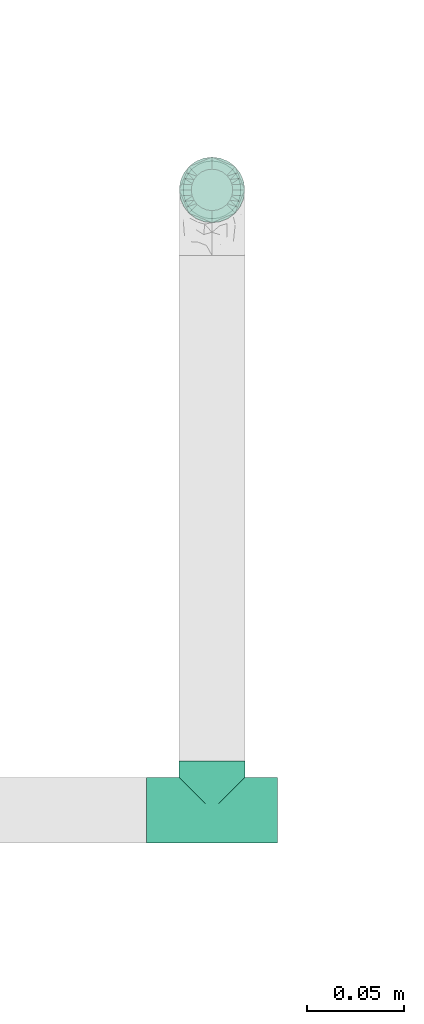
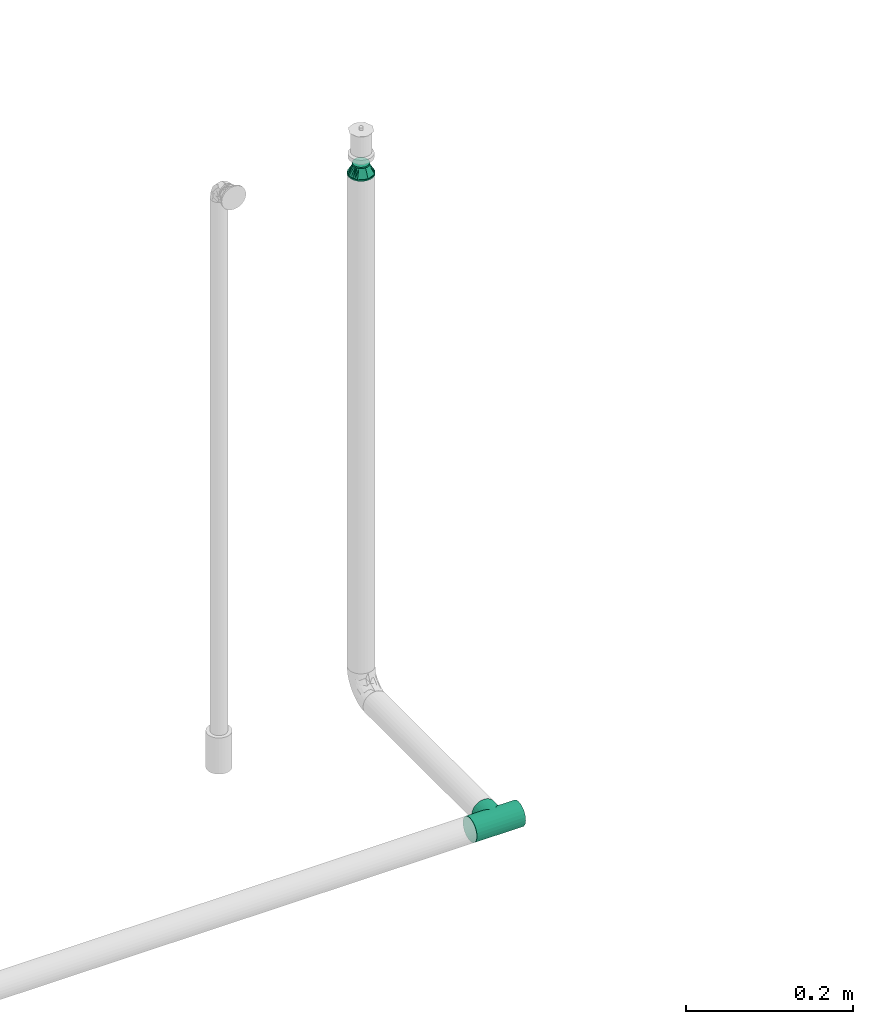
# One storey, part 47 of 94: 2 flow fittings.
"""IFC2X3 building model written with IfcOpenShell, lengths in millimetres."""

from ifc_helpers import new_model, entity, si_unit, converted_unit, derived_unit, direction, frame, origin_with_axes, place, context, subcontext, project, spatial, open_shell, surface_model, source, transform, mapped, type_object, element, save


model = new_model("IFC2X3")

# Units and contexts
model_context = context("Model", 3, precision=0.01, world=frame((0.0, 4.29681676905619e-09, 0.0)), true_north=direction((4.01073788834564e-13, 1.0)))
plan_context = context("Plan", 3, precision=0.01, world=frame((0.0, 4.29681676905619e-09, 0.0)), true_north=direction((4.01073788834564e-13, 1.0)))
body_context = subcontext(model_context, "Body", "Model", "MODEL_VIEW")
ifc_project = project(units=[converted_unit("PLANEANGLEUNIT", "DEGREE", entity("IfcPositiveLengthMeasure", 0.0174532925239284), si_unit("PLANEANGLEUNIT", "RADIAN"), dimensions=[0, 0, 0, 0, 0, 0, 0]), si_unit("AREAUNIT", "SQUARE_METRE"), si_unit("LENGTHUNIT", "METRE", prefix="MILLI"), si_unit("MASSUNIT", "GRAM", prefix="KILO"), si_unit("POWERUNIT", "WATT"), si_unit("PRESSUREUNIT", "PASCAL", prefix="KILO"), si_unit("FORCEUNIT", "NEWTON", prefix="KILO"), si_unit("ELECTRICVOLTAGEUNIT", "VOLT"), si_unit("ELECTRICCURRENTUNIT", "AMPERE"), si_unit("THERMODYNAMICTEMPERATUREUNIT", "DEGREE_CELSIUS"), si_unit("TIMEUNIT", "SECOND"), si_unit("VOLUMEUNIT", "CUBIC_METRE"), derived_unit("LINEARVELOCITYUNIT", [(si_unit("LENGTHUNIT", "METRE"), 1), (si_unit("TIMEUNIT", "SECOND"), -1)]), derived_unit("VOLUMETRICFLOWRATEUNIT", [(si_unit("VOLUMEUNIT", "CUBIC_METRE"), 1), (si_unit("TIMEUNIT", "SECOND"), -1)]), derived_unit("THERMALTRANSMITTANCEUNIT", [(si_unit("POWERUNIT", "WATT"), 1), (si_unit("THERMODYNAMICTEMPERATUREUNIT", "KELVIN"), -1), (si_unit("AREAUNIT", "SQUARE_METRE"), -1)]), derived_unit("SOUNDPRESSUREUNIT", [(si_unit("PRESSUREUNIT", "PASCAL"), 1)])], contexts=[model_context, plan_context])

# Site, building, storey
site_placement = place(None, frame((0.0, -4.29681676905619e-09, 0.0), z_axis=(0.0, 0.0, 1.0), x_axis=(1.0, 0.0, 0.0)))
site = spatial("IfcSite", under=ifc_project, at=site_placement, CompositionType="ELEMENT")
building_placement = place(site_placement, frame((0.0, 4.29681676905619e-09, 0.0), z_axis=(0.0, 0.0, 1.0), x_axis=(1.0, 0.0, 0.0)))
building = spatial("IfcBuilding", under=site, at=building_placement, Name="mc-building", CompositionType="ELEMENT")
storey_placement = place(building_placement, frame((0.0, 0.0, 210900.0), z_axis=(0.0, 0.0, 1.0), x_axis=(1.0, 0.0, 0.0)))
storey = spatial("IfcBuildingStorey", under=building, at=storey_placement, Name="Nivå F", CompositionType="ELEMENT", Elevation=210900.0)

# Flow fittings
pipe_fitting_type_1 = type_object("IfcPipeFittingType", Name="magi_pipe_fe_reducer_centric_short_NOR", PredefinedType="TRANSITION")
shared_shape_1 = source(origin_with_axes(), body_context, "Body", "SurfaceModel", [
    surface_model("IfcShellBasedSurfaceModel", [(14.4, 5.35, -9.26647), (14.4, 0.0, -10.7), (14.4, 2.76936, -10.33541), (14.4, 10.33541, -2.76936), (14.4, 7.56604, -7.56604), (14.4, -10.33541, -2.76936), (14.4, 9.26647, -5.35), (14.4, 0.0, 10.7), (14.4, -5.35, -9.26647), (14.4, -2.76936, -10.33541), (14.4, -7.56604, -7.56604), (14.4, -9.26647, -5.35), (14.4, 10.7, 0.0), (14.4, 10.33541, 2.76936), (14.4, 9.26647, 5.35), (14.4, 7.56604, 7.56604), (14.4, 2.76936, 10.33541), (14.4, 5.35, 9.26647), (14.4, -10.33541, 2.76936), (14.4, -7.56604, 7.56604), (14.4, -9.26647, 5.35), (14.4, -10.7, 0.0), (14.4, -2.76936, 10.33541), (14.4, -5.35, 9.26647), (12.4, 2.76936, 10.33541), (12.4, -10.33541, -2.76936), (12.4, 0.0, 10.7), (12.4, 5.35, 9.26647), (12.4, 7.56604, 7.56604), (12.4, 9.26647, 5.35), (12.4, 10.33541, 2.76936), (12.4, -10.33541, 2.76936), (12.4, -2.76936, 10.33541), (12.4, -7.56604, 7.56604), (12.4, -5.35, 9.26647), (12.4, -9.26647, 5.35), (12.4, -10.7, 0.0), (12.4, 10.33541, -2.76936), (12.4, 5.35, -9.26647), (12.4, 9.26647, -5.35), (12.4, 7.56604, -7.56604), (12.4, 2.76936, -10.33541), (12.4, -9.26647, -5.35), (12.4, -5.35, -9.26647), (12.4, -7.56604, -7.56604), (12.4, 0.0, -10.7), (12.4, -2.76936, -10.33541), (12.4, 10.7, 0.0), (-2.0, 11.9501, 11.9501), (-2.0, 0.0, 16.9), (-2.0, 4.37404, 16.32415), (-2.0, 8.45, 14.63583), (-2.0, 14.63583, 8.45), (-2.0, 16.32415, 4.37404), (-2.0, -16.32415, 4.37404), (-2.0, -8.45, 14.63583), (-2.0, -14.63583, 8.45), (-2.0, -11.9501, 11.9501), (-2.0, -4.37404, 16.32415), (-2.0, -16.32415, -4.37404), (-2.0, -16.9, 0.0), (-2.0, -8.45, -14.63583), (-2.0, 16.32415, -4.37404), (-2.0, 11.9501, -11.9501), (-2.0, 14.63583, -8.45), (-2.0, 8.45, -14.63583), (-2.0, 4.37404, -16.32415), (-2.0, 0.0, -16.9), (-2.0, -11.9501, -11.9501), (-2.0, -14.63583, -8.45), (-2.0, -4.37404, -16.32415), (-2.0, 16.9, 0.0), (0.0, 4.37404, -16.32415), (0.0, 8.45, -14.63583), (0.0, 11.9501, -11.9501), (0.0, 0.0, -16.9), (0.0, 16.32415, -4.37404), (0.0, 16.32415, 4.37404), (0.0, 14.63583, -8.45), (0.0, -8.45, -14.63583), (0.0, -4.37404, -16.32415), (0.0, -11.9501, -11.9501), (0.0, -16.32415, -4.37404), (0.0, -14.63583, -8.45), (0.0, -16.32415, 4.37404), (0.0, 16.9, 0.0), (0.0, 14.63583, 8.45), (0.0, 11.9501, 11.9501), (0.0, 4.37404, 16.32415), (0.0, 8.45, 14.63583), (0.0, 0.0, 16.9), (0.0, -14.63583, 8.45), (0.0, -16.9, 0.0), (0.0, -8.45, 14.63583), (0.0, -11.9501, 11.9501), (0.0, -4.37404, 16.32415), (12.4, 9.3625, -2.31662), (0.0, 14.42505, -5.97505), (0.0, 15.66253, -2.98753), (12.4, -6.6875, -6.94985), (0.0, -13.18758, -8.96258), (0.0, 2.98753, -15.66253), (12.4, 0.0, -9.26647), (12.4, 6.6875, -6.94985), (0.0, 8.96258, -13.18758), (12.4, -9.3625, -2.31662), (0.0, -15.66253, -2.98753), (0.0, -14.42505, -5.97505), (0.0, 5.97505, -14.42505), (0.0, -2.98753, -15.66253), (0.0, -8.96258, -13.18758), (0.0, 13.18758, -8.96258), (12.4, 8.025, -4.63324), (12.4, -2.675, -9.26647), (12.4, 2.675, -9.26647), (0.0, -5.97505, -14.42505), (12.4, -8.025, -4.63324), (12.4, -9.3625, 2.31662), (0.0, -14.42505, 5.97505), (0.0, -15.66253, 2.98753), (12.4, 6.6875, 6.94985), (0.0, 13.18758, 8.96258), (0.0, -2.98753, 15.66253), (12.4, 0.0, 9.26647), (12.4, -6.6875, 6.94985), (0.0, -8.96258, 13.18758), (12.4, 9.3625, 2.31662), (0.0, 15.66253, 2.98753), (0.0, 14.42505, 5.97505), (0.0, -5.97505, 14.42505), (0.0, 2.98753, 15.66253), (0.0, 8.96258, 13.18758), (0.0, -13.18758, 8.96258), (12.4, -8.025, 4.63324), (12.4, 2.675, 9.26647), (12.4, -2.675, 9.26647), (0.0, 5.97505, 14.42505), (12.4, 8.025, 4.63324)], [open_shell([[[0, 1, 2]], [[3, 0, 4]], [[5, 0, 3]], [[3, 4, 6]], [[7, 5, 3]], [[1, 8, 9]], [[1, 0, 8]], [[10, 5, 11]], [[5, 10, 8]], [[0, 5, 8]], [[3, 12, 13]], [[13, 14, 15]], [[13, 15, 16]], [[7, 3, 16]], [[16, 15, 17]], [[7, 18, 5]], [[18, 19, 20]], [[21, 5, 18]], [[19, 22, 23]], [[22, 19, 18]], [[7, 22, 18]], [[13, 16, 3]], [[24, 25, 26]], [[27, 25, 24]], [[28, 29, 30]], [[28, 25, 27]], [[31, 26, 25]], [[32, 33, 34]], [[33, 32, 31]], [[33, 31, 35]], [[32, 26, 31]], [[31, 25, 36]], [[30, 37, 28]], [[25, 28, 37]], [[38, 37, 39]], [[37, 38, 25]], [[38, 39, 40]], [[41, 25, 38]], [[42, 43, 44]], [[43, 42, 25]], [[43, 45, 46]], [[43, 25, 41]], [[41, 45, 43]], [[37, 30, 47]], [[25, 5, 36]], [[42, 11, 25]], [[8, 44, 43]], [[42, 44, 10]], [[9, 43, 46]], [[25, 11, 5]], [[5, 21, 36]], [[9, 8, 43]], [[10, 44, 8]], [[10, 11, 42]], [[1, 9, 46]], [[46, 45, 1]], [[41, 2, 45]], [[38, 0, 41]], [[6, 40, 39]], [[38, 40, 4]], [[3, 39, 37]], [[38, 4, 0]], [[0, 2, 41]], [[12, 3, 37]], [[6, 39, 3]], [[6, 4, 40]], [[47, 12, 37]], [[45, 2, 1]], [[30, 13, 47]], [[29, 14, 30]], [[17, 28, 27]], [[29, 28, 15]], [[16, 27, 24]], [[30, 14, 13]], [[13, 12, 47]], [[16, 17, 27]], [[15, 28, 17]], [[15, 14, 29]], [[7, 16, 24]], [[24, 26, 7]], [[32, 22, 26]], [[34, 23, 32]], [[20, 33, 35]], [[34, 33, 19]], [[18, 35, 31]], [[34, 19, 23]], [[23, 22, 32]], [[21, 18, 31]], [[20, 35, 18]], [[20, 19, 33]], [[36, 21, 31]], [[26, 22, 7]], [[48, 49, 50]], [[48, 50, 51]], [[48, 52, 53]], [[48, 53, 49]], [[49, 53, 54]], [[55, 56, 57]], [[55, 58, 49]], [[56, 55, 49]], [[49, 54, 56]], [[54, 59, 60]], [[54, 53, 61]], [[53, 62, 63]], [[63, 62, 64]], [[63, 65, 66]], [[61, 53, 63]], [[67, 63, 66]], [[59, 68, 69]], [[68, 59, 61]], [[61, 67, 70]], [[59, 54, 61]], [[63, 67, 61]], [[53, 71, 62]], [[72, 73, 74]], [[75, 72, 74]], [[74, 76, 77]], [[76, 74, 78]], [[74, 77, 79]], [[75, 79, 80]], [[75, 74, 79]], [[81, 82, 83]], [[82, 81, 79]], [[79, 84, 82]], [[77, 76, 85]], [[77, 86, 87]], [[77, 87, 88]], [[88, 84, 79]], [[88, 87, 89]], [[84, 88, 90]], [[90, 91, 84]], [[92, 82, 84]], [[91, 93, 94]], [[91, 90, 93]], [[93, 90, 95]], [[79, 77, 88]], [[59, 82, 60]], [[69, 83, 59]], [[79, 68, 61]], [[69, 68, 81]], [[80, 61, 70]], [[59, 83, 82]], [[82, 92, 60]], [[80, 79, 61]], [[81, 68, 79]], [[81, 83, 69]], [[75, 80, 70]], [[70, 67, 75]], [[66, 72, 67]], [[65, 73, 66]], [[78, 63, 64]], [[65, 63, 74]], [[76, 64, 62]], [[65, 74, 73]], [[73, 72, 66]], [[85, 76, 62]], [[78, 64, 76]], [[78, 74, 63]], [[71, 85, 62]], [[67, 72, 75]], [[53, 77, 71]], [[52, 86, 53]], [[89, 48, 51]], [[52, 48, 87]], [[88, 51, 50]], [[53, 86, 77]], [[77, 85, 71]], [[88, 89, 51]], [[87, 48, 89]], [[87, 86, 52]], [[90, 88, 50]], [[50, 49, 90]], [[58, 95, 49]], [[55, 93, 58]], [[91, 57, 56]], [[55, 57, 94]], [[84, 56, 54]], [[55, 94, 93]], [[93, 95, 58]], [[92, 84, 54]], [[91, 56, 84]], [[91, 94, 57]], [[60, 92, 54]], [[49, 95, 90]], [[27, 34, 47]], [[47, 34, 43]], [[43, 38, 47]], [[43, 34, 36]], [[90, 87, 94]], [[92, 94, 87]], [[87, 74, 92]], [[75, 92, 74]], [[81, 92, 75]], [[74, 87, 85]], [[96, 97, 98]], [[81, 99, 100]], [[101, 102, 75]], [[98, 85, 47]], [[74, 103, 104]], [[104, 103, 38]], [[105, 106, 107]], [[38, 108, 104]], [[102, 109, 75]], [[110, 99, 81]], [[47, 96, 98]], [[103, 111, 112]], [[109, 102, 113]], [[36, 92, 106]], [[102, 101, 114]], [[110, 115, 43]], [[96, 112, 97]], [[107, 116, 105]], [[36, 106, 105]], [[113, 115, 109]], [[43, 115, 113]], [[116, 107, 100]], [[108, 38, 114]], [[111, 103, 74]], [[111, 97, 112]], [[99, 110, 43]], [[116, 100, 99]], [[101, 108, 114]], [[117, 118, 119]], [[87, 120, 121]], [[122, 123, 90]], [[119, 92, 36]], [[94, 124, 125]], [[125, 124, 34]], [[126, 127, 128]], [[34, 129, 125]], [[123, 130, 90]], [[131, 120, 87]], [[36, 117, 119]], [[124, 132, 133]], [[130, 123, 134]], [[47, 85, 127]], [[123, 122, 135]], [[131, 136, 27]], [[117, 133, 118]], [[128, 137, 126]], [[47, 127, 126]], [[134, 136, 130]], [[27, 136, 134]], [[137, 128, 121]], [[129, 34, 135]], [[132, 124, 94]], [[132, 118, 133]], [[120, 131, 27]], [[137, 121, 120]], [[122, 129, 135]]])]),
])
flow_fitting_1_placement = place(storey_placement, frame((721618.28055, 441198.08755, 4357.64799999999), z_axis=(-1.0, 0.0, 0.0), x_axis=(0.0, 0.0, 1.0)))
element("IfcFlowFitting", 1, at=flow_fitting_1_placement, inside=storey, type_object=pipe_fitting_type_1, Name="magi_pipe_fe_reducer_centric_short_NOR", context=body_context, shape_type="MappedRepresentation", body=[
    mapped(shared_shape_1, transform((0.0, 0.0, 0.0), scale=1.0)),
])
pipe_fitting_type_2 = type_object("IfcPipeFittingType", Name="magi_pipe_fe_tee_centric_90_NOR", PredefinedType="JUNCTION")
shared_shape_2 = source(origin_with_axes(), body_context, "Body", "SurfaceModel", [
    surface_model("IfcShellBasedSurfaceModel", [(-33.8, 4.37404, -16.32415), (-33.8, 0.0, -16.9), (-33.8, 16.32415, -4.37404), (-33.8, 8.45, -14.63583), (-33.8, 11.9501, -11.9501), (-33.8, 14.63583, -8.45), (-33.8, -16.9, 0.0), (-33.8, -11.9501, -11.9501), (-33.8, -14.63583, -8.45), (-33.8, -8.45, -14.63583), (-33.8, -4.37404, -16.32415), (-33.8, -16.32415, -4.37404), (-33.8, 14.63583, 8.45), (-33.8, 16.32415, 4.37404), (-33.8, -8.45, 14.63583), (-33.8, 8.45, 14.63583), (-33.8, 11.9501, 11.9501), (-33.8, 4.37404, 16.32415), (-33.8, 0.0, 16.9), (-33.8, -11.9501, 11.9501), (-33.8, -14.63583, 8.45), (-33.8, -16.32415, 4.37404), (-33.8, -4.37404, 16.32415), (-33.8, 16.9, 0.0), (33.8, 4.37404, -16.32415), (33.8, -16.9, 0.0), (33.8, 0.0, -16.9), (33.8, 14.63583, -8.45), (33.8, 8.45, -14.63583), (33.8, 16.32415, -4.37404), (33.8, 11.9501, -11.9501), (33.8, -16.32415, 4.37404), (33.8, -8.45, -14.63583), (33.8, -4.37404, -16.32415), (33.8, -11.9501, -11.9501), (33.8, -14.63583, -8.45), (33.8, -16.32415, -4.37404), (33.8, 16.32415, 4.37404), (33.8, 8.45, 14.63583), (33.8, 14.63583, 8.45), (33.8, 11.9501, 11.9501), (33.8, -8.45, 14.63583), (33.8, 4.37404, 16.32415), (33.8, -14.63583, 8.45), (33.8, -11.9501, 11.9501), (33.8, 0.0, 16.9), (33.8, -4.37404, 16.32415), (33.8, 16.9, 0.0), (16.28698, -16.28698, 4.51047), (16.9, -16.9, 0.0), (14.62704, -14.62704, 8.4652), (9.47213, -9.47213, 13.99602), (12.26343, -12.26343, 11.62834), (-16.9, -16.9, 0.0), (-16.28698, -16.28698, 4.51047), (-14.62704, -14.62704, 8.4652), (-12.26343, -12.26343, 11.62834), (-9.47213, -9.47213, 13.99602), (-6.42894, -6.42894, 15.62942), (6.42894, -6.42894, 15.62942), (3.24522, -3.24522, 16.58549), (0.0, 0.0, 16.9), (-3.24522, -3.24522, 16.58549), (3.24522, -3.24522, -16.58549), (0.0, 0.0, -16.9), (-3.24522, -3.24522, -16.58549), (-6.42894, -6.42894, -15.62942), (6.42894, -6.42894, -15.62942), (9.47213, -9.47213, -13.99602), (12.26343, -12.26343, -11.62834), (14.62704, -14.62704, -8.4652), (16.28698, -16.28698, -4.51047), (-9.47213, -9.47213, -13.99602), (-12.26343, -12.26343, -11.62834), (-16.28698, -16.28698, -4.51047), (-14.62704, -14.62704, -8.4652), (4.37404, -25.35, -16.32415), (-16.9, -25.35, 0.0), (0.0, -25.35, -16.9), (14.63583, -25.35, -8.45), (8.45, -25.35, -14.63583), (16.32415, -25.35, -4.37404), (11.9501, -25.35, -11.9501), (-11.9501, -25.35, -11.9501), (-8.45, -25.35, -14.63583), (-4.37404, -25.35, -16.32415), (-14.63583, -25.35, -8.45), (-16.32415, -25.35, -4.37404), (16.9, -25.35, 0.0), (8.45, -25.35, 14.63583), (16.32415, -25.35, 4.37404), (14.63583, -25.35, 8.45), (-8.45, -25.35, 14.63583), (11.9501, -25.35, 11.9501), (4.37404, -25.35, 16.32415), (-16.32415, -25.35, 4.37404), (-11.9501, -25.35, 11.9501), (-14.63583, -25.35, 8.45), (0.0, -25.35, 16.9), (-4.37404, -25.35, 16.32415)], [open_shell([[[0, 1, 2]], [[3, 0, 4]], [[0, 2, 5]], [[4, 0, 5]], [[6, 2, 1]], [[7, 8, 9]], [[1, 10, 9]], [[11, 6, 8]], [[1, 9, 8]], [[1, 8, 6]], [[6, 12, 2]], [[12, 13, 2]], [[14, 12, 6]], [[12, 14, 15]], [[16, 12, 15]], [[17, 15, 18]], [[19, 14, 20]], [[21, 20, 14]], [[22, 18, 14]], [[14, 6, 21]], [[14, 18, 15]], [[23, 2, 13]], [[24, 25, 26]], [[27, 24, 28]], [[27, 29, 24]], [[27, 28, 30]], [[31, 25, 24]], [[26, 32, 33]], [[26, 34, 32]], [[35, 25, 36]], [[35, 34, 26]], [[25, 35, 26]], [[24, 29, 31]], [[29, 37, 38]], [[38, 37, 39]], [[38, 31, 29]], [[38, 39, 40]], [[41, 38, 42]], [[43, 41, 44]], [[41, 43, 31]], [[41, 45, 46]], [[41, 31, 38]], [[42, 45, 41]], [[29, 47, 37]], [[31, 43, 48]], [[25, 31, 49]], [[49, 31, 48]], [[43, 50, 48]], [[44, 41, 51]], [[50, 43, 52]], [[51, 52, 44]], [[52, 43, 44]], [[53, 54, 21]], [[53, 21, 6]], [[21, 54, 20]], [[54, 55, 20]], [[56, 57, 19]], [[19, 20, 56]], [[19, 57, 14]], [[56, 20, 55]], [[14, 57, 58]], [[51, 41, 59]], [[60, 45, 61]], [[59, 46, 60]], [[46, 59, 41]], [[60, 46, 45]], [[61, 45, 42]], [[39, 37, 13]], [[16, 38, 40]], [[12, 40, 39]], [[42, 38, 15]], [[23, 37, 47]], [[62, 61, 18]], [[62, 22, 58]], [[22, 62, 18]], [[58, 22, 14]], [[61, 17, 18]], [[42, 17, 61]], [[15, 17, 42]], [[15, 38, 16]], [[12, 16, 40]], [[13, 12, 39]], [[37, 23, 13]], [[5, 27, 30]], [[23, 47, 29]], [[30, 28, 3]], [[27, 2, 29]], [[26, 33, 63]], [[26, 64, 24]], [[64, 26, 63]], [[28, 24, 0]], [[64, 0, 24]], [[4, 30, 3]], [[2, 27, 5]], [[5, 30, 4]], [[2, 23, 29]], [[65, 66, 10]], [[1, 0, 64]], [[1, 65, 10]], [[66, 9, 10]], [[0, 3, 28]], [[1, 64, 65]], [[63, 33, 67]], [[32, 34, 68]], [[69, 68, 34]], [[35, 70, 69]], [[69, 34, 35]], [[32, 68, 67]], [[36, 25, 49]], [[36, 71, 35]], [[71, 36, 49]], [[35, 71, 70]], [[72, 9, 66]], [[72, 7, 9]], [[7, 72, 73]], [[7, 73, 8]], [[74, 53, 11]], [[75, 74, 8]], [[74, 11, 8]], [[11, 53, 6]], [[75, 8, 73]], [[32, 67, 33]], [[76, 77, 78]], [[79, 76, 80]], [[79, 81, 76]], [[79, 80, 82]], [[77, 76, 81]], [[78, 83, 84]], [[84, 85, 78]], [[86, 77, 87]], [[83, 78, 86]], [[77, 86, 78]], [[81, 88, 77]], [[89, 88, 90]], [[89, 90, 91]], [[92, 77, 89]], [[89, 91, 93]], [[92, 89, 94]], [[95, 96, 97]], [[96, 95, 92]], [[92, 98, 99]], [[95, 77, 92]], [[94, 98, 92]], [[89, 77, 88]], [[77, 95, 53]], [[54, 53, 95]], [[97, 96, 56]], [[96, 92, 57]], [[95, 97, 54]], [[58, 92, 99]], [[55, 54, 97]], [[56, 55, 97]], [[58, 57, 92]], [[98, 61, 62]], [[58, 99, 62]], [[56, 96, 57]], [[62, 99, 98]], [[94, 60, 98]], [[89, 59, 94]], [[91, 90, 48]], [[52, 93, 91]], [[93, 51, 89]], [[49, 90, 88]], [[59, 60, 94]], [[51, 59, 89]], [[49, 48, 90]], [[50, 52, 91]], [[48, 50, 91]], [[51, 93, 52]], [[98, 60, 61]], [[88, 81, 49]], [[71, 49, 81]], [[79, 82, 69]], [[82, 80, 68]], [[81, 79, 71]], [[67, 80, 76]], [[70, 71, 79]], [[69, 70, 79]], [[67, 68, 80]], [[78, 64, 63]], [[67, 76, 63]], [[69, 82, 68]], [[63, 76, 78]], [[85, 65, 78]], [[84, 66, 85]], [[86, 87, 74]], [[86, 73, 83]], [[72, 84, 83]], [[53, 87, 77]], [[66, 65, 85]], [[72, 66, 84]], [[53, 74, 87]], [[75, 73, 86]], [[74, 75, 86]], [[72, 83, 73]], [[78, 65, 64]]])]),
])
flow_fitting_2_placement = place(storey_placement, frame((721618.28055, 440878.08755, 3600.0), z_axis=(0.0, 0.0, -1.0), x_axis=(1.0, 0.0, 0.0)))
element("IfcFlowFitting", 2, at=flow_fitting_2_placement, inside=storey, type_object=pipe_fitting_type_2, Name="magi_pipe_fe_tee_centric_90_NOR", context=body_context, shape_type="MappedRepresentation", body=[
    mapped(shared_shape_2, transform((0.0, 0.0, 0.0), scale=1.0)),
])

save(model, "model.ifc")
